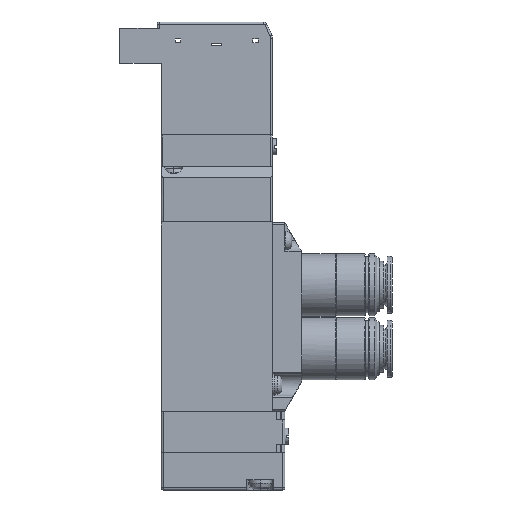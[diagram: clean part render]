
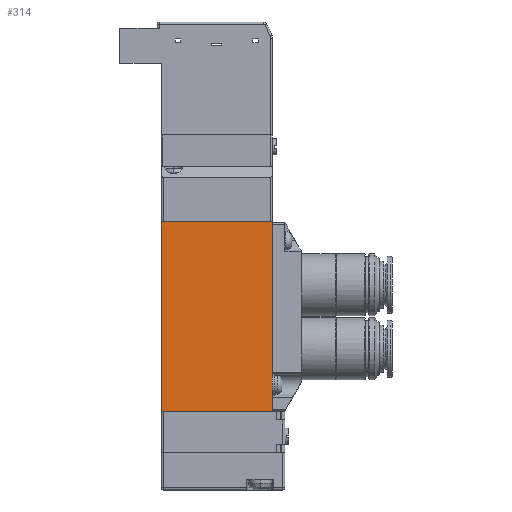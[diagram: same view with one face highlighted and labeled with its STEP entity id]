
A CAD part, left-side view. The second image highlights one B-rep face of the part: STEP entity #314.
In plain terms, the highlighted planar face has unit normal (-1, 0, 0).
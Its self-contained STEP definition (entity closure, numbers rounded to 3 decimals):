
#314=ADVANCED_FACE('',(#850),#849,.T.);
#849=PLANE('',#4601);
#850=FACE_OUTER_BOUND('',#4602,.T.);
#4598=CARTESIAN_POINT('',(-7.5,-29.7,-4.6));
#4599=DIRECTION('',(-1.,0.,0.));
#4600=DIRECTION('',(0.,0.,1.));
#4601=AXIS2_PLACEMENT_3D('',#4598,#4599,#4600);
#4602=EDGE_LOOP('',(#7297,#7298,#7299,#7300,#7301,#7302));
#7297=ORIENTED_EDGE('',*,*,#9127,.F.);
#7298=ORIENTED_EDGE('',*,*,#9128,.F.);
#7299=ORIENTED_EDGE('',*,*,#9129,.T.);
#7300=ORIENTED_EDGE('',*,*,#9124,.T.);
#7301=ORIENTED_EDGE('',*,*,#9130,.F.);
#7302=ORIENTED_EDGE('',*,*,#9065,.T.);
#9065=EDGE_CURVE('',#10044,#10045,#10046,.T.);
#9124=EDGE_CURVE('',#10450,#10442,#10451,.T.);
#9127=EDGE_CURVE('',#10470,#10045,#10471,.T.);
#9128=EDGE_CURVE('',#10477,#10470,#10478,.T.);
#9129=EDGE_CURVE('',#10477,#10450,#10484,.T.);
#9130=EDGE_CURVE('',#10044,#10442,#10490,.T.);
#10044=VERTEX_POINT('',#16118);
#10045=VERTEX_POINT('',#16119);
#10046=LINE('',#16120,#16121);
#10442=VERTEX_POINT('',#16343);
#10450=VERTEX_POINT('',#16348);
#10451=LINE('',#16349,#16350);
#10470=VERTEX_POINT('',#16359);
#10471=LINE('',#16360,#16361);
#10477=VERTEX_POINT('',#16363);
#10478=LINE('',#16364,#16365);
#10484=LINE('',#16367,#16368);
#10490=LINE('',#16370,#16371);
#16118=CARTESIAN_POINT('',(-7.5,-27.,4.839));
#16119=CARTESIAN_POINT('',(-7.5,-27.,8.161));
#16120=CARTESIAN_POINT('',(-7.5,-27.,4.839));
#16121=VECTOR('',#16122,3.323);
#16122=DIRECTION('',(0.,0.,1.));
#16343=CARTESIAN_POINT('',(-7.5,-27.,0.));
#16348=CARTESIAN_POINT('',(-7.5,0.,0.));
#16349=CARTESIAN_POINT('',(-7.5,0.,0.));
#16350=VECTOR('',#16351,27.);
#16351=DIRECTION('',(0.,-1.,0.));
#16359=CARTESIAN_POINT('',(-7.5,-27.,46.));
#16360=CARTESIAN_POINT('',(-7.5,-27.,46.));
#16361=VECTOR('',#16362,37.839);
#16362=DIRECTION('',(0.,0.,-1.));
#16363=CARTESIAN_POINT('',(-7.5,0.,46.));
#16364=CARTESIAN_POINT('',(-7.5,0.,46.));
#16365=VECTOR('',#16366,27.);
#16366=DIRECTION('',(0.,-1.,0.));
#16367=CARTESIAN_POINT('',(-7.5,0.,46.));
#16368=VECTOR('',#16369,46.);
#16369=DIRECTION('',(0.,0.,-1.));
#16370=CARTESIAN_POINT('',(-7.5,-27.,4.839));
#16371=VECTOR('',#16372,4.839);
#16372=DIRECTION('',(0.,0.,-1.));
